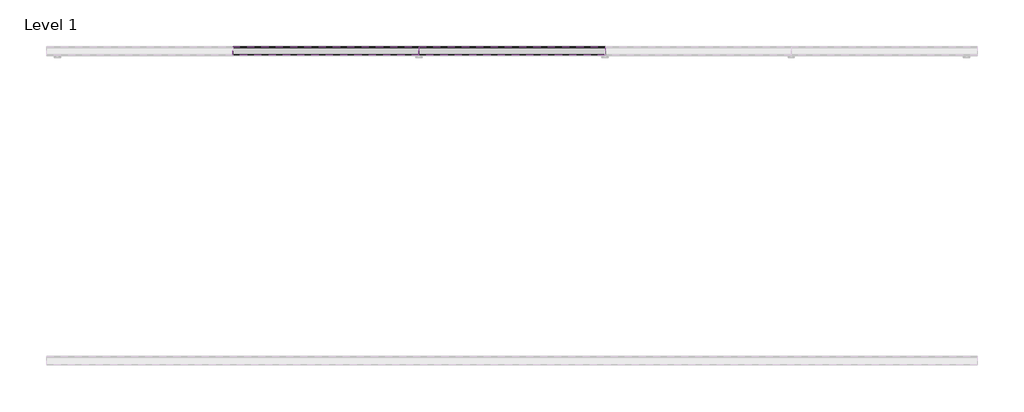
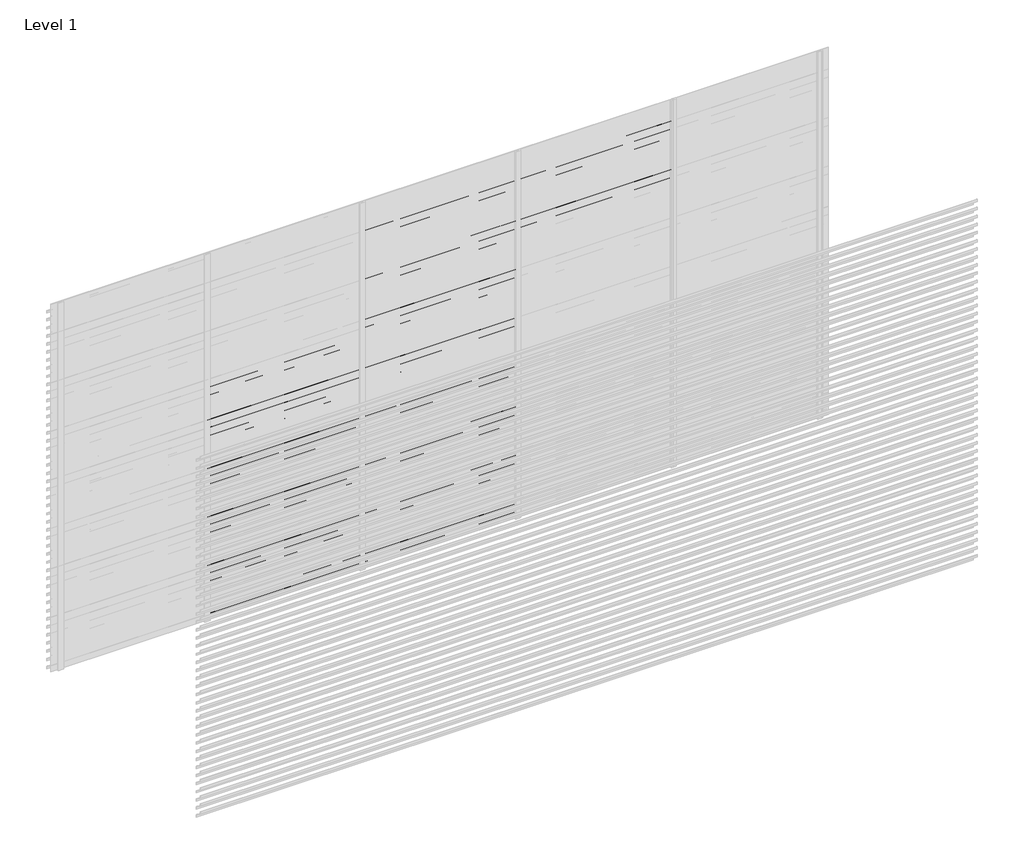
# One storey, part 74 of 540: 84 proxies.
"""IFC4 building model written with IfcOpenShell, lengths in millimetres."""

from ifc_helpers import new_model, si_unit, frame, origin, place, context, project, spatial, polyline, outline, extrude, element, save

model = new_model("IFC4")

# Units and contexts
model_context = context("Model", 3, world=origin())
ifc_project = project(units=[si_unit("LENGTHUNIT", "METRE", prefix="MILLI")], contexts=[model_context])

# Site, building, storey
site = spatial("IfcSite", under=ifc_project)
building = spatial("IfcBuilding", under=site)
storey = spatial("IfcBuildingStorey", under=building, Name="Level 1", Elevation=0.0)

# Proxies
placement = place(None, origin())
element("IfcBuildingElementProxy", 1, Name="Wall Sweeps", at=placement, inside=storey, context=model_context, shape_type="SweptSolid", body=[
    extrude(outline(polyline([(44081.0540136, 1857.5), (44081.0540136, 1837.5), (44079.8040136, 1838.2216933), (44079.8040136, 1856.7872415), (44026.0540136, 1894.3158044), (44026.0540136, 1914.0), (44027.3040136, 1914.0), (44027.3040136, 1895.0285629), (44081.0540136, 1857.5)])), frame((1666.6208099, 0.0, 0.0), z_axis=(1.0, 0.0, 0.0), x_axis=(0.0, 1.0, 0.0)), (0.0, 0.0, 1.0), 1199.9999999),
])
element("IfcBuildingElementProxy", 2, Name="Wall Sweeps", at=placement, inside=storey, context=model_context, shape_type="SweptSolid", body=[
    extrude(outline(polyline([(44081.0540136, 1791.5), (44081.0540136, 1771.5), (44079.8040136, 1772.2216933), (44079.8040136, 1790.7872415), (44026.0540136, 1828.3158044), (44026.0540136, 1848.0), (44027.3040136, 1848.0), (44027.3040136, 1829.0285629), (44081.0540136, 1791.5)])), frame((1666.6208099, 0.0, 0.0), z_axis=(1.0, 0.0, 0.0), x_axis=(0.0, 1.0, 0.0)), (0.0, 0.0, 1.0), 1199.9999999),
])
element("IfcBuildingElementProxy", 3, Name="Wall Sweeps", at=placement, inside=storey, context=model_context, shape_type="SweptSolid", body=[
    extrude(outline(polyline([(44081.0540136, 1725.5), (44081.0540136, 1705.5), (44079.8040136, 1706.2216933), (44079.8040136, 1724.7872415), (44026.0540136, 1762.3158044), (44026.0540136, 1782.0), (44027.3040136, 1782.0), (44027.3040136, 1763.0285629), (44081.0540136, 1725.5)])), frame((1666.6208099, 0.0, 0.0), z_axis=(1.0, 0.0, 0.0), x_axis=(0.0, 1.0, 0.0)), (0.0, 0.0, 1.0), 1199.9999999),
])
element("IfcBuildingElementProxy", 4, Name="Wall Sweeps", at=placement, inside=storey, context=model_context, shape_type="SweptSolid", body=[
    extrude(outline(polyline([(44081.0540136, 1659.5), (44081.0540136, 1639.5), (44079.8040136, 1640.2216933), (44079.8040136, 1658.7872415), (44026.0540136, 1696.3158044), (44026.0540136, 1716.0), (44027.3040136, 1716.0), (44027.3040136, 1697.0285629), (44081.0540136, 1659.5)])), frame((1666.6208099, 0.0, 0.0), z_axis=(1.0, 0.0, 0.0), x_axis=(0.0, 1.0, 0.0)), (0.0, 0.0, 1.0), 1199.9999999),
])
element("IfcBuildingElementProxy", 5, Name="Wall Sweeps", at=placement, inside=storey, context=model_context, shape_type="SweptSolid", body=[
    extrude(outline(polyline([(44081.0540136, 1593.5), (44081.0540136, 1573.5), (44079.8040136, 1574.2216933), (44079.8040136, 1592.7872415), (44026.0540136, 1630.3158044), (44026.0540136, 1650.0), (44027.3040136, 1650.0), (44027.3040136, 1631.0285629), (44081.0540136, 1593.5)])), frame((1666.6208099, 0.0, 0.0), z_axis=(1.0, 0.0, 0.0), x_axis=(0.0, 1.0, 0.0)), (0.0, 0.0, 1.0), 1199.9999999),
])
element("IfcBuildingElementProxy", 6, Name="Wall Sweeps", at=placement, inside=storey, context=model_context, shape_type="SweptSolid", body=[
    extrude(outline(polyline([(44081.0540136, 1527.5), (44081.0540136, 1507.5), (44079.8040136, 1508.2216933), (44079.8040136, 1526.7872415), (44026.0540136, 1564.3158044), (44026.0540136, 1584.0), (44027.3040136, 1584.0), (44027.3040136, 1565.0285629), (44081.0540136, 1527.5)])), frame((1666.6208099, 0.0, 0.0), z_axis=(1.0, 0.0, 0.0), x_axis=(0.0, 1.0, 0.0)), (0.0, 0.0, 1.0), 1199.9999999),
])
element("IfcBuildingElementProxy", 7, Name="Wall Sweeps", at=placement, inside=storey, context=model_context, shape_type="SweptSolid", body=[
    extrude(outline(polyline([(44081.0540136, 1461.5), (44081.0540136, 1441.5), (44079.8040136, 1442.2216933), (44079.8040136, 1460.7872415), (44026.0540136, 1498.3158044), (44026.0540136, 1518.0), (44027.3040136, 1518.0), (44027.3040136, 1499.0285629), (44081.0540136, 1461.5)])), frame((1666.6208099, 0.0, 0.0), z_axis=(1.0, 0.0, 0.0), x_axis=(0.0, 1.0, 0.0)), (0.0, 0.0, 1.0), 1199.9999999),
])
element("IfcBuildingElementProxy", 8, Name="Wall Sweeps", at=placement, inside=storey, context=model_context, shape_type="SweptSolid", body=[
    extrude(outline(polyline([(44081.0540136, 1395.5), (44081.0540136, 1375.5), (44079.8040136, 1376.2216933), (44079.8040136, 1394.7872415), (44026.0540136, 1432.3158044), (44026.0540136, 1452.0), (44027.3040136, 1452.0), (44027.3040136, 1433.0285629), (44081.0540136, 1395.5)])), frame((1666.6208099, 0.0, 0.0), z_axis=(1.0, 0.0, 0.0), x_axis=(0.0, 1.0, 0.0)), (0.0, 0.0, 1.0), 1199.9999999),
])
element("IfcBuildingElementProxy", 9, Name="Wall Sweeps", at=placement, inside=storey, context=model_context, shape_type="SweptSolid", body=[
    extrude(outline(polyline([(44081.0540136, 1329.5), (44081.0540136, 1309.5), (44079.8040136, 1310.2216933), (44079.8040136, 1328.7872415), (44026.0540136, 1366.3158044), (44026.0540136, 1386.0), (44027.3040136, 1386.0), (44027.3040136, 1367.0285629), (44081.0540136, 1329.5)])), frame((1666.6208099, 0.0, 0.0), z_axis=(1.0, 0.0, 0.0), x_axis=(0.0, 1.0, 0.0)), (0.0, 0.0, 1.0), 1199.9999999),
])
element("IfcBuildingElementProxy", 10, Name="Wall Sweeps", at=placement, inside=storey, context=model_context, shape_type="SweptSolid", body=[
    extrude(outline(polyline([(44081.0540136, 1263.5), (44081.0540136, 1243.5), (44079.8040136, 1244.2216933), (44079.8040136, 1262.7872415), (44026.0540136, 1300.3158044), (44026.0540136, 1320.0), (44027.3040136, 1320.0), (44027.3040136, 1301.0285629), (44081.0540136, 1263.5)])), frame((1666.6208099, 0.0, 0.0), z_axis=(1.0, 0.0, 0.0), x_axis=(0.0, 1.0, 0.0)), (0.0, 0.0, 1.0), 1199.9999999),
])
element("IfcBuildingElementProxy", 11, Name="Wall Sweeps", at=placement, inside=storey, context=model_context, shape_type="SweptSolid", body=[
    extrude(outline(polyline([(44081.0540136, 1197.5), (44081.0540136, 1177.5), (44079.8040136, 1178.2216933), (44079.8040136, 1196.7872415), (44026.0540136, 1234.3158044), (44026.0540136, 1254.0), (44027.3040136, 1254.0), (44027.3040136, 1235.0285629), (44081.0540136, 1197.5)])), frame((1666.6208099, 0.0, 0.0), z_axis=(1.0, 0.0, 0.0), x_axis=(0.0, 1.0, 0.0)), (0.0, 0.0, 1.0), 1199.9999999),
])
element("IfcBuildingElementProxy", 12, Name="Wall Sweeps", at=placement, inside=storey, context=model_context, shape_type="SweptSolid", body=[
    extrude(outline(polyline([(44081.0540136, 1131.5), (44081.0540136, 1111.5), (44079.8040136, 1112.2216933), (44079.8040136, 1130.7872415), (44026.0540136, 1168.3158044), (44026.0540136, 1188.0), (44027.3040136, 1188.0), (44027.3040136, 1169.0285629), (44081.0540136, 1131.5)])), frame((1666.6208099, 0.0, 0.0), z_axis=(1.0, 0.0, 0.0), x_axis=(0.0, 1.0, 0.0)), (0.0, 0.0, 1.0), 1199.9999999),
])
element("IfcBuildingElementProxy", 13, Name="Wall Sweeps", at=placement, inside=storey, context=model_context, shape_type="SweptSolid", body=[
    extrude(outline(polyline([(44081.0540136, 1065.5), (44081.0540136, 1045.5), (44079.8040136, 1046.2216933), (44079.8040136, 1064.7872415), (44026.0540136, 1102.3158044), (44026.0540136, 1122.0), (44027.3040136, 1122.0), (44027.3040136, 1103.0285629), (44081.0540136, 1065.5)])), frame((1666.6208099, 0.0, 0.0), z_axis=(1.0, 0.0, 0.0), x_axis=(0.0, 1.0, 0.0)), (0.0, 0.0, 1.0), 1199.9999999),
])
element("IfcBuildingElementProxy", 14, Name="Wall Sweeps", at=placement, inside=storey, context=model_context, shape_type="SweptSolid", body=[
    extrude(outline(polyline([(44081.0540136, 999.5), (44081.0540136, 979.5), (44079.8040136, 980.2216933), (44079.8040136, 998.7872415), (44026.0540136, 1036.3158044), (44026.0540136, 1056.0), (44027.3040136, 1056.0), (44027.3040136, 1037.0285629), (44081.0540136, 999.5)])), frame((1666.6208099, 0.0, 0.0), z_axis=(1.0, 0.0, 0.0), x_axis=(0.0, 1.0, 0.0)), (0.0, 0.0, 1.0), 1199.9999999),
])
element("IfcBuildingElementProxy", 15, Name="Wall Sweeps", at=placement, inside=storey, context=model_context, shape_type="SweptSolid", body=[
    extrude(outline(polyline([(44081.0540136, 933.5), (44081.0540136, 913.5), (44079.8040136, 914.2216933), (44079.8040136, 932.7872415), (44026.0540136, 970.3158044), (44026.0540136, 990.0), (44027.3040136, 990.0), (44027.3040136, 971.0285629), (44081.0540136, 933.5)])), frame((1666.6208099, 0.0, 0.0), z_axis=(1.0, 0.0, 0.0), x_axis=(0.0, 1.0, 0.0)), (0.0, 0.0, 1.0), 1199.9999999),
])
element("IfcBuildingElementProxy", 16, Name="Wall Sweeps", at=placement, inside=storey, context=model_context, shape_type="SweptSolid", body=[
    extrude(outline(polyline([(44081.0540136, 867.5), (44081.0540136, 847.5), (44079.8040136, 848.2216933), (44079.8040136, 866.7872415), (44026.0540136, 904.3158044), (44026.0540136, 924.0), (44027.3040136, 924.0), (44027.3040136, 905.0285629), (44081.0540136, 867.5)])), frame((1666.6208099, 0.0, 0.0), z_axis=(1.0, 0.0, 0.0), x_axis=(0.0, 1.0, 0.0)), (0.0, 0.0, 1.0), 1199.9999999),
])
element("IfcBuildingElementProxy", 17, Name="Wall Sweeps", at=placement, inside=storey, context=model_context, shape_type="SweptSolid", body=[
    extrude(outline(polyline([(44081.0540136, 801.5), (44081.0540136, 781.5), (44079.8040136, 782.2216933), (44079.8040136, 800.7872415), (44026.0540136, 838.3158044), (44026.0540136, 858.0), (44027.3040136, 858.0), (44027.3040136, 839.0285629), (44081.0540136, 801.5)])), frame((1666.6208099, 0.0, 0.0), z_axis=(1.0, 0.0, 0.0), x_axis=(0.0, 1.0, 0.0)), (0.0, 0.0, 1.0), 1199.9999999),
])
element("IfcBuildingElementProxy", 18, Name="Wall Sweeps", at=placement, inside=storey, context=model_context, shape_type="SweptSolid", body=[
    extrude(outline(polyline([(44081.0540136, 735.5), (44081.0540136, 715.5), (44079.8040136, 716.2216933), (44079.8040136, 734.7872415), (44026.0540136, 772.3158044), (44026.0540136, 792.0), (44027.3040136, 792.0), (44027.3040136, 773.0285629), (44081.0540136, 735.5)])), frame((1666.6208099, 0.0, 0.0), z_axis=(1.0, 0.0, 0.0), x_axis=(0.0, 1.0, 0.0)), (0.0, 0.0, 1.0), 1199.9999999),
])
element("IfcBuildingElementProxy", 19, Name="Wall Sweeps", at=placement, inside=storey, context=model_context, shape_type="SweptSolid", body=[
    extrude(outline(polyline([(44081.0540136, 669.5), (44081.0540136, 649.5), (44079.8040136, 650.2216933), (44079.8040136, 668.7872415), (44026.0540136, 706.3158044), (44026.0540136, 726.0), (44027.3040136, 726.0), (44027.3040136, 707.0285629), (44081.0540136, 669.5)])), frame((1666.6208099, 0.0, 0.0), z_axis=(1.0, 0.0, 0.0), x_axis=(0.0, 1.0, 0.0)), (0.0, 0.0, 1.0), 1199.9999999),
])
element("IfcBuildingElementProxy", 20, Name="Wall Sweeps", at=placement, inside=storey, context=model_context, shape_type="SweptSolid", body=[
    extrude(outline(polyline([(44081.0540136, 603.5), (44081.0540136, 583.5), (44079.8040136, 584.2216933), (44079.8040136, 602.7872415), (44026.0540136, 640.3158044), (44026.0540136, 660.0), (44027.3040136, 660.0), (44027.3040136, 641.0285629), (44081.0540136, 603.5)])), frame((1666.6208099, 0.0, 0.0), z_axis=(1.0, 0.0, 0.0), x_axis=(0.0, 1.0, 0.0)), (0.0, 0.0, 1.0), 1199.9999999),
])
element("IfcBuildingElementProxy", 21, Name="Wall Sweeps", at=placement, inside=storey, context=model_context, shape_type="SweptSolid", body=[
    extrude(outline(polyline([(44081.0540136, 537.5), (44081.0540136, 517.5), (44079.8040136, 518.2216933), (44079.8040136, 536.7872415), (44026.0540136, 574.3158044), (44026.0540136, 594.0), (44027.3040136, 594.0), (44027.3040136, 575.0285629), (44081.0540136, 537.5)])), frame((1666.6208099, 0.0, 0.0), z_axis=(1.0, 0.0, 0.0), x_axis=(0.0, 1.0, 0.0)), (0.0, 0.0, 1.0), 1199.9999999),
])
element("IfcBuildingElementProxy", 22, Name="Wall Sweeps", at=placement, inside=storey, context=model_context, shape_type="SweptSolid", body=[
    extrude(outline(polyline([(44081.0540136, 471.5), (44081.0540136, 451.5), (44079.8040136, 452.2216933), (44079.8040136, 470.7872415), (44026.0540136, 508.3158044), (44026.0540136, 528.0), (44027.3040136, 528.0), (44027.3040136, 509.0285629), (44081.0540136, 471.5)])), frame((1666.6208099, 0.0, 0.0), z_axis=(1.0, 0.0, 0.0), x_axis=(0.0, 1.0, 0.0)), (0.0, 0.0, 1.0), 1199.9999999),
])
element("IfcBuildingElementProxy", 23, Name="Wall Sweeps", at=placement, inside=storey, context=model_context, shape_type="SweptSolid", body=[
    extrude(outline(polyline([(44081.0540136, 405.5), (44081.0540136, 385.5), (44079.8040136, 386.2216933), (44079.8040136, 404.7872415), (44026.0540136, 442.3158044), (44026.0540136, 462.0), (44027.3040136, 462.0), (44027.3040136, 443.0285629), (44081.0540136, 405.5)])), frame((1666.6208099, 0.0, 0.0), z_axis=(1.0, 0.0, 0.0), x_axis=(0.0, 1.0, 0.0)), (0.0, 0.0, 1.0), 1199.9999999),
])
element("IfcBuildingElementProxy", 24, Name="Wall Sweeps", at=placement, inside=storey, context=model_context, shape_type="SweptSolid", body=[
    extrude(outline(polyline([(44081.0540136, 339.5), (44081.0540136, 319.5), (44079.8040136, 320.2216933), (44079.8040136, 338.7872415), (44026.0540136, 376.3158044), (44026.0540136, 396.0), (44027.3040136, 396.0), (44027.3040136, 377.0285629), (44081.0540136, 339.5)])), frame((1666.6208099, 0.0, 0.0), z_axis=(1.0, 0.0, 0.0), x_axis=(0.0, 1.0, 0.0)), (0.0, 0.0, 1.0), 1199.9999999),
])
element("IfcBuildingElementProxy", 25, Name="Wall Sweeps", at=placement, inside=storey, context=model_context, shape_type="SweptSolid", body=[
    extrude(outline(polyline([(44081.0540136, 273.5), (44081.0540136, 253.5), (44079.8040136, 254.2216933), (44079.8040136, 272.7872415), (44026.0540136, 310.3158044), (44026.0540136, 330.0), (44027.3040136, 330.0), (44027.3040136, 311.0285629), (44081.0540136, 273.5)])), frame((1666.6208099, 0.0, 0.0), z_axis=(1.0, 0.0, 0.0), x_axis=(0.0, 1.0, 0.0)), (0.0, 0.0, 1.0), 1199.9999999),
])
element("IfcBuildingElementProxy", 26, Name="Wall Sweeps", at=placement, inside=storey, context=model_context, shape_type="SweptSolid", body=[
    extrude(outline(polyline([(44081.0540136, 207.5), (44081.0540136, 187.5), (44079.8040136, 188.2216933), (44079.8040136, 206.7872415), (44026.0540136, 244.3158044), (44026.0540136, 264.0), (44027.3040136, 264.0), (44027.3040136, 245.0285629), (44081.0540136, 207.5)])), frame((1666.6208099, 0.0, 0.0), z_axis=(1.0, 0.0, 0.0), x_axis=(0.0, 1.0, 0.0)), (0.0, 0.0, 1.0), 1199.9999999),
])
element("IfcBuildingElementProxy", 27, Name="Wall Sweeps", at=placement, inside=storey, context=model_context, shape_type="SweptSolid", body=[
    extrude(outline(polyline([(44081.0540136, 141.5), (44081.0540136, 121.5), (44079.8040136, 122.2216933), (44079.8040136, 140.7872415), (44026.0540136, 178.3158044), (44026.0540136, 198.0), (44027.3040136, 198.0), (44027.3040136, 179.0285629), (44081.0540136, 141.5)])), frame((1666.6208099, 0.0, 0.0), z_axis=(1.0, 0.0, 0.0), x_axis=(0.0, 1.0, 0.0)), (0.0, 0.0, 1.0), 1199.9999999),
])
element("IfcBuildingElementProxy", 28, Name="Wall Sweeps", at=placement, inside=storey, context=model_context, shape_type="SweptSolid", body=[
    extrude(outline(polyline([(44081.0540136, 75.5), (44081.0540136, 55.5), (44079.8040136, 56.2216933), (44079.8040136, 74.7872415), (44026.0540136, 112.3158044), (44026.0540136, 132.0), (44027.3040136, 132.0), (44027.3040136, 113.0285629), (44081.0540136, 75.5)])), frame((1666.6208099, 0.0, 0.0), z_axis=(1.0, 0.0, 0.0), x_axis=(0.0, 1.0, 0.0)), (0.0, 0.0, 1.0), 1199.9999999),
])
element("IfcBuildingElementProxy", 29, Name="Wall Sweeps", at=placement, inside=storey, context=model_context, shape_type="SweptSolid", body=[
    extrude(outline(polyline([(44081.0540136, 9.5), (44081.0540136, -10.5), (44079.8040136, -9.7783067), (44079.8040136, 8.7872415), (44026.0540136, 46.3158044), (44026.0540136, 66.0), (44027.3040136, 66.0), (44027.3040136, 47.0285629), (44081.0540136, 9.5)])), frame((1666.6208099, 0.0, 0.0), z_axis=(1.0, 0.0, 0.0), x_axis=(0.0, 1.0, 0.0)), (0.0, 0.0, 1.0), 1199.9999999),
])
element("IfcBuildingElementProxy", 30, Name="Wall Sweeps", at=placement, inside=storey, context=model_context, shape_type="SweptSolid", body=[
    extrude(outline(polyline([(44081.0540136, 2913.5), (44081.0540136, 2893.5), (44079.8040136, 2894.2216933), (44079.8040136, 2912.7872415), (44026.0540136, 2950.3158044), (44026.0540136, 2970.0), (44027.3040136, 2970.0), (44027.3040136, 2951.0285629), (44081.0540136, 2913.5)])), frame((2866.6208097, 0.0, 0.0), z_axis=(1.0, 0.0, 0.0), x_axis=(0.0, 1.0, 0.0)), (0.0, 0.0, 1.0), 1199.9999999),
])
element("IfcBuildingElementProxy", 31, Name="Wall Sweeps", at=placement, inside=storey, context=model_context, shape_type="SweptSolid", body=[
    extrude(outline(polyline([(44081.0540136, 2847.5), (44081.0540136, 2827.5), (44079.8040136, 2828.2216933), (44079.8040136, 2846.7872415), (44026.0540136, 2884.3158044), (44026.0540136, 2904.0), (44027.3040136, 2904.0), (44027.3040136, 2885.0285629), (44081.0540136, 2847.5)])), frame((2866.6208097, 0.0, 0.0), z_axis=(1.0, 0.0, 0.0), x_axis=(0.0, 1.0, 0.0)), (0.0, 0.0, 1.0), 1199.9999999),
])
element("IfcBuildingElementProxy", 32, Name="Wall Sweeps", at=placement, inside=storey, context=model_context, shape_type="SweptSolid", body=[
    extrude(outline(polyline([(44081.0540136, 2781.5), (44081.0540136, 2761.5), (44079.8040136, 2762.2216933), (44079.8040136, 2780.7872415), (44026.0540136, 2818.3158044), (44026.0540136, 2838.0), (44027.3040136, 2838.0), (44027.3040136, 2819.0285629), (44081.0540136, 2781.5)])), frame((2866.6208097, 0.0, 0.0), z_axis=(1.0, 0.0, 0.0), x_axis=(0.0, 1.0, 0.0)), (0.0, 0.0, 1.0), 1199.9999999),
])
element("IfcBuildingElementProxy", 33, Name="Wall Sweeps", at=placement, inside=storey, context=model_context, shape_type="SweptSolid", body=[
    extrude(outline(polyline([(44081.0540136, 2715.5), (44081.0540136, 2695.5), (44079.8040136, 2696.2216933), (44079.8040136, 2714.7872415), (44026.0540136, 2752.3158044), (44026.0540136, 2772.0), (44027.3040136, 2772.0), (44027.3040136, 2753.0285629), (44081.0540136, 2715.5)])), frame((2866.6208097, 0.0, 0.0), z_axis=(1.0, 0.0, 0.0), x_axis=(0.0, 1.0, 0.0)), (0.0, 0.0, 1.0), 1199.9999999),
])
element("IfcBuildingElementProxy", 34, Name="Wall Sweeps", at=placement, inside=storey, context=model_context, shape_type="SweptSolid", body=[
    extrude(outline(polyline([(44081.0540136, 2649.5), (44081.0540136, 2629.5), (44079.8040136, 2630.2216933), (44079.8040136, 2648.7872415), (44026.0540136, 2686.3158044), (44026.0540136, 2706.0), (44027.3040136, 2706.0), (44027.3040136, 2687.0285629), (44081.0540136, 2649.5)])), frame((2866.6208097, 0.0, 0.0), z_axis=(1.0, 0.0, 0.0), x_axis=(0.0, 1.0, 0.0)), (0.0, 0.0, 1.0), 1199.9999999),
])
element("IfcBuildingElementProxy", 35, Name="Wall Sweeps", at=placement, inside=storey, context=model_context, shape_type="SweptSolid", body=[
    extrude(outline(polyline([(44081.0540136, 2583.5), (44081.0540136, 2563.5), (44079.8040136, 2564.2216933), (44079.8040136, 2582.7872415), (44026.0540136, 2620.3158044), (44026.0540136, 2640.0), (44027.3040136, 2640.0), (44027.3040136, 2621.0285629), (44081.0540136, 2583.5)])), frame((2866.6208097, 0.0, 0.0), z_axis=(1.0, 0.0, 0.0), x_axis=(0.0, 1.0, 0.0)), (0.0, 0.0, 1.0), 1199.9999999),
])
element("IfcBuildingElementProxy", 36, Name="Wall Sweeps", at=placement, inside=storey, context=model_context, shape_type="SweptSolid", body=[
    extrude(outline(polyline([(44081.0540136, 2517.5), (44081.0540136, 2497.5), (44079.8040136, 2498.2216933), (44079.8040136, 2516.7872415), (44026.0540136, 2554.3158044), (44026.0540136, 2574.0), (44027.3040136, 2574.0), (44027.3040136, 2555.0285629), (44081.0540136, 2517.5)])), frame((2866.6208097, 0.0, 0.0), z_axis=(1.0, 0.0, 0.0), x_axis=(0.0, 1.0, 0.0)), (0.0, 0.0, 1.0), 1199.9999999),
])
element("IfcBuildingElementProxy", 37, Name="Wall Sweeps", at=placement, inside=storey, context=model_context, shape_type="SweptSolid", body=[
    extrude(outline(polyline([(44081.0540136, 2451.5), (44081.0540136, 2431.5), (44079.8040136, 2432.2216933), (44079.8040136, 2450.7872415), (44026.0540136, 2488.3158044), (44026.0540136, 2508.0), (44027.3040136, 2508.0), (44027.3040136, 2489.0285629), (44081.0540136, 2451.5)])), frame((2866.6208097, 0.0, 0.0), z_axis=(1.0, 0.0, 0.0), x_axis=(0.0, 1.0, 0.0)), (0.0, 0.0, 1.0), 1199.9999999),
])
element("IfcBuildingElementProxy", 38, Name="Wall Sweeps", at=placement, inside=storey, context=model_context, shape_type="SweptSolid", body=[
    extrude(outline(polyline([(44081.0540136, 2385.5), (44081.0540136, 2365.5), (44079.8040136, 2366.2216933), (44079.8040136, 2384.7872415), (44026.0540136, 2422.3158044), (44026.0540136, 2442.0), (44027.3040136, 2442.0), (44027.3040136, 2423.0285629), (44081.0540136, 2385.5)])), frame((2866.6208097, 0.0, 0.0), z_axis=(1.0, 0.0, 0.0), x_axis=(0.0, 1.0, 0.0)), (0.0, 0.0, 1.0), 1199.9999999),
])
element("IfcBuildingElementProxy", 39, Name="Wall Sweeps", at=placement, inside=storey, context=model_context, shape_type="SweptSolid", body=[
    extrude(outline(polyline([(44081.0540136, 2319.5), (44081.0540136, 2299.5), (44079.8040136, 2300.2216933), (44079.8040136, 2318.7872415), (44026.0540136, 2356.3158044), (44026.0540136, 2376.0), (44027.3040136, 2376.0), (44027.3040136, 2357.0285629), (44081.0540136, 2319.5)])), frame((2866.6208097, 0.0, 0.0), z_axis=(1.0, 0.0, 0.0), x_axis=(0.0, 1.0, 0.0)), (0.0, 0.0, 1.0), 1199.9999999),
])
element("IfcBuildingElementProxy", 40, Name="Wall Sweeps", at=placement, inside=storey, context=model_context, shape_type="SweptSolid", body=[
    extrude(outline(polyline([(44081.0540136, 2253.5), (44081.0540136, 2233.5), (44079.8040136, 2234.2216933), (44079.8040136, 2252.7872415), (44026.0540136, 2290.3158044), (44026.0540136, 2310.0), (44027.3040136, 2310.0), (44027.3040136, 2291.0285629), (44081.0540136, 2253.5)])), frame((2866.6208097, 0.0, 0.0), z_axis=(1.0, 0.0, 0.0), x_axis=(0.0, 1.0, 0.0)), (0.0, 0.0, 1.0), 1199.9999999),
])
element("IfcBuildingElementProxy", 41, Name="Wall Sweeps", at=placement, inside=storey, context=model_context, shape_type="SweptSolid", body=[
    extrude(outline(polyline([(44081.0540136, 2187.5), (44081.0540136, 2167.5), (44079.8040136, 2168.2216933), (44079.8040136, 2186.7872415), (44026.0540136, 2224.3158044), (44026.0540136, 2244.0), (44027.3040136, 2244.0), (44027.3040136, 2225.0285629), (44081.0540136, 2187.5)])), frame((2866.6208097, 0.0, 0.0), z_axis=(1.0, 0.0, 0.0), x_axis=(0.0, 1.0, 0.0)), (0.0, 0.0, 1.0), 1199.9999999),
])
element("IfcBuildingElementProxy", 42, Name="Wall Sweeps", at=placement, inside=storey, context=model_context, shape_type="SweptSolid", body=[
    extrude(outline(polyline([(44081.0540136, 2121.5), (44081.0540136, 2101.5), (44079.8040136, 2102.2216933), (44079.8040136, 2120.7872415), (44026.0540136, 2158.3158044), (44026.0540136, 2178.0), (44027.3040136, 2178.0), (44027.3040136, 2159.0285629), (44081.0540136, 2121.5)])), frame((2866.6208097, 0.0, 0.0), z_axis=(1.0, 0.0, 0.0), x_axis=(0.0, 1.0, 0.0)), (0.0, 0.0, 1.0), 1199.9999999),
])
element("IfcBuildingElementProxy", 43, Name="Wall Sweeps", at=placement, inside=storey, context=model_context, shape_type="SweptSolid", body=[
    extrude(outline(polyline([(44081.0540136, 2055.5), (44081.0540136, 2035.5), (44079.8040136, 2036.2216933), (44079.8040136, 2054.7872415), (44026.0540136, 2092.3158044), (44026.0540136, 2112.0), (44027.3040136, 2112.0), (44027.3040136, 2093.0285629), (44081.0540136, 2055.5)])), frame((2866.6208097, 0.0, 0.0), z_axis=(1.0, 0.0, 0.0), x_axis=(0.0, 1.0, 0.0)), (0.0, 0.0, 1.0), 1199.9999999),
])
element("IfcBuildingElementProxy", 44, Name="Wall Sweeps", at=placement, inside=storey, context=model_context, shape_type="SweptSolid", body=[
    extrude(outline(polyline([(44081.0540136, 1989.5), (44081.0540136, 1969.5), (44079.8040136, 1970.2216933), (44079.8040136, 1988.7872415), (44026.0540136, 2026.3158044), (44026.0540136, 2046.0), (44027.3040136, 2046.0), (44027.3040136, 2027.0285629), (44081.0540136, 1989.5)])), frame((2866.6208097, 0.0, 0.0), z_axis=(1.0, 0.0, 0.0), x_axis=(0.0, 1.0, 0.0)), (0.0, 0.0, 1.0), 1199.9999999),
])
element("IfcBuildingElementProxy", 45, Name="Wall Sweeps", at=placement, inside=storey, context=model_context, shape_type="SweptSolid", body=[
    extrude(outline(polyline([(44081.0540136, 1923.5), (44081.0540136, 1903.5), (44079.8040136, 1904.2216933), (44079.8040136, 1922.7872415), (44026.0540136, 1960.3158044), (44026.0540136, 1980.0), (44027.3040136, 1980.0), (44027.3040136, 1961.0285629), (44081.0540136, 1923.5)])), frame((2866.6208097, 0.0, 0.0), z_axis=(1.0, 0.0, 0.0), x_axis=(0.0, 1.0, 0.0)), (0.0, 0.0, 1.0), 1199.9999999),
])
element("IfcBuildingElementProxy", 46, Name="Wall Sweeps", at=placement, inside=storey, context=model_context, shape_type="SweptSolid", body=[
    extrude(outline(polyline([(44081.0540136, 1857.5), (44081.0540136, 1837.5), (44079.8040136, 1838.2216933), (44079.8040136, 1856.7872415), (44026.0540136, 1894.3158044), (44026.0540136, 1914.0), (44027.3040136, 1914.0), (44027.3040136, 1895.0285629), (44081.0540136, 1857.5)])), frame((2866.6208097, 0.0, 0.0), z_axis=(1.0, 0.0, 0.0), x_axis=(0.0, 1.0, 0.0)), (0.0, 0.0, 1.0), 1199.9999999),
])
element("IfcBuildingElementProxy", 47, Name="Wall Sweeps", at=placement, inside=storey, context=model_context, shape_type="SweptSolid", body=[
    extrude(outline(polyline([(44081.0540136, 1791.5), (44081.0540136, 1771.5), (44079.8040136, 1772.2216933), (44079.8040136, 1790.7872415), (44026.0540136, 1828.3158044), (44026.0540136, 1848.0), (44027.3040136, 1848.0), (44027.3040136, 1829.0285629), (44081.0540136, 1791.5)])), frame((2866.6208097, 0.0, 0.0), z_axis=(1.0, 0.0, 0.0), x_axis=(0.0, 1.0, 0.0)), (0.0, 0.0, 1.0), 1199.9999999),
])
element("IfcBuildingElementProxy", 48, Name="Wall Sweeps", at=placement, inside=storey, context=model_context, shape_type="SweptSolid", body=[
    extrude(outline(polyline([(44081.0540136, 1725.5), (44081.0540136, 1705.5), (44079.8040136, 1706.2216933), (44079.8040136, 1724.7872415), (44026.0540136, 1762.3158044), (44026.0540136, 1782.0), (44027.3040136, 1782.0), (44027.3040136, 1763.0285629), (44081.0540136, 1725.5)])), frame((2866.6208097, 0.0, 0.0), z_axis=(1.0, 0.0, 0.0), x_axis=(0.0, 1.0, 0.0)), (0.0, 0.0, 1.0), 1199.9999999),
])
element("IfcBuildingElementProxy", 49, Name="Wall Sweeps", at=placement, inside=storey, context=model_context, shape_type="SweptSolid", body=[
    extrude(outline(polyline([(44081.0540136, 1659.5), (44081.0540136, 1639.5), (44079.8040136, 1640.2216933), (44079.8040136, 1658.7872415), (44026.0540136, 1696.3158044), (44026.0540136, 1716.0), (44027.3040136, 1716.0), (44027.3040136, 1697.0285629), (44081.0540136, 1659.5)])), frame((2866.6208097, 0.0, 0.0), z_axis=(1.0, 0.0, 0.0), x_axis=(0.0, 1.0, 0.0)), (0.0, 0.0, 1.0), 1199.9999999),
])
element("IfcBuildingElementProxy", 50, Name="Wall Sweeps", at=placement, inside=storey, context=model_context, shape_type="SweptSolid", body=[
    extrude(outline(polyline([(44081.0540136, 1593.5), (44081.0540136, 1573.5), (44079.8040136, 1574.2216933), (44079.8040136, 1592.7872415), (44026.0540136, 1630.3158044), (44026.0540136, 1650.0), (44027.3040136, 1650.0), (44027.3040136, 1631.0285629), (44081.0540136, 1593.5)])), frame((2866.6208097, 0.0, 0.0), z_axis=(1.0, 0.0, 0.0), x_axis=(0.0, 1.0, 0.0)), (0.0, 0.0, 1.0), 1199.9999999),
])
element("IfcBuildingElementProxy", 51, Name="Wall Sweeps", at=placement, inside=storey, context=model_context, shape_type="SweptSolid", body=[
    extrude(outline(polyline([(44081.0540136, 1527.5), (44081.0540136, 1507.5), (44079.8040136, 1508.2216933), (44079.8040136, 1526.7872415), (44026.0540136, 1564.3158044), (44026.0540136, 1584.0), (44027.3040136, 1584.0), (44027.3040136, 1565.0285629), (44081.0540136, 1527.5)])), frame((2866.6208097, 0.0, 0.0), z_axis=(1.0, 0.0, 0.0), x_axis=(0.0, 1.0, 0.0)), (0.0, 0.0, 1.0), 1199.9999999),
])
element("IfcBuildingElementProxy", 52, Name="Wall Sweeps", at=placement, inside=storey, context=model_context, shape_type="SweptSolid", body=[
    extrude(outline(polyline([(44081.0540136, 1461.5), (44081.0540136, 1441.5), (44079.8040136, 1442.2216933), (44079.8040136, 1460.7872415), (44026.0540136, 1498.3158044), (44026.0540136, 1518.0), (44027.3040136, 1518.0), (44027.3040136, 1499.0285629), (44081.0540136, 1461.5)])), frame((2866.6208097, 0.0, 0.0), z_axis=(1.0, 0.0, 0.0), x_axis=(0.0, 1.0, 0.0)), (0.0, 0.0, 1.0), 1199.9999999),
])
element("IfcBuildingElementProxy", 53, Name="Wall Sweeps", at=placement, inside=storey, context=model_context, shape_type="SweptSolid", body=[
    extrude(outline(polyline([(44081.0540136, 1395.5), (44081.0540136, 1375.5), (44079.8040136, 1376.2216933), (44079.8040136, 1394.7872415), (44026.0540136, 1432.3158044), (44026.0540136, 1452.0), (44027.3040136, 1452.0), (44027.3040136, 1433.0285629), (44081.0540136, 1395.5)])), frame((2866.6208097, 0.0, 0.0), z_axis=(1.0, 0.0, 0.0), x_axis=(0.0, 1.0, 0.0)), (0.0, 0.0, 1.0), 1199.9999999),
])
element("IfcBuildingElementProxy", 54, Name="Wall Sweeps", at=placement, inside=storey, context=model_context, shape_type="SweptSolid", body=[
    extrude(outline(polyline([(44081.0540136, 1329.5), (44081.0540136, 1309.5), (44079.8040136, 1310.2216933), (44079.8040136, 1328.7872415), (44026.0540136, 1366.3158044), (44026.0540136, 1386.0), (44027.3040136, 1386.0), (44027.3040136, 1367.0285629), (44081.0540136, 1329.5)])), frame((2866.6208097, 0.0, 0.0), z_axis=(1.0, 0.0, 0.0), x_axis=(0.0, 1.0, 0.0)), (0.0, 0.0, 1.0), 1199.9999999),
])
element("IfcBuildingElementProxy", 55, Name="Wall Sweeps", at=placement, inside=storey, context=model_context, shape_type="SweptSolid", body=[
    extrude(outline(polyline([(44081.0540136, 1263.5), (44081.0540136, 1243.5), (44079.8040136, 1244.2216933), (44079.8040136, 1262.7872415), (44026.0540136, 1300.3158044), (44026.0540136, 1320.0), (44027.3040136, 1320.0), (44027.3040136, 1301.0285629), (44081.0540136, 1263.5)])), frame((2866.6208097, 0.0, 0.0), z_axis=(1.0, 0.0, 0.0), x_axis=(0.0, 1.0, 0.0)), (0.0, 0.0, 1.0), 1199.9999999),
])
element("IfcBuildingElementProxy", 56, Name="Wall Sweeps", at=placement, inside=storey, context=model_context, shape_type="SweptSolid", body=[
    extrude(outline(polyline([(44081.0540136, 1197.5), (44081.0540136, 1177.5), (44079.8040136, 1178.2216933), (44079.8040136, 1196.7872415), (44026.0540136, 1234.3158044), (44026.0540136, 1254.0), (44027.3040136, 1254.0), (44027.3040136, 1235.0285629), (44081.0540136, 1197.5)])), frame((2866.6208097, 0.0, 0.0), z_axis=(1.0, 0.0, 0.0), x_axis=(0.0, 1.0, 0.0)), (0.0, 0.0, 1.0), 1199.9999999),
])
element("IfcBuildingElementProxy", 57, Name="Wall Sweeps", at=placement, inside=storey, context=model_context, shape_type="SweptSolid", body=[
    extrude(outline(polyline([(44081.0540136, 1131.5), (44081.0540136, 1111.5), (44079.8040136, 1112.2216933), (44079.8040136, 1130.7872415), (44026.0540136, 1168.3158044), (44026.0540136, 1188.0), (44027.3040136, 1188.0), (44027.3040136, 1169.0285629), (44081.0540136, 1131.5)])), frame((2866.6208097, 0.0, 0.0), z_axis=(1.0, 0.0, 0.0), x_axis=(0.0, 1.0, 0.0)), (0.0, 0.0, 1.0), 1199.9999999),
])
element("IfcBuildingElementProxy", 58, Name="Wall Sweeps", at=placement, inside=storey, context=model_context, shape_type="SweptSolid", body=[
    extrude(outline(polyline([(44081.0540136, 1065.5), (44081.0540136, 1045.5), (44079.8040136, 1046.2216933), (44079.8040136, 1064.7872415), (44026.0540136, 1102.3158044), (44026.0540136, 1122.0), (44027.3040136, 1122.0), (44027.3040136, 1103.0285629), (44081.0540136, 1065.5)])), frame((2866.6208097, 0.0, 0.0), z_axis=(1.0, 0.0, 0.0), x_axis=(0.0, 1.0, 0.0)), (0.0, 0.0, 1.0), 1199.9999999),
])
element("IfcBuildingElementProxy", 59, Name="Wall Sweeps", at=placement, inside=storey, context=model_context, shape_type="SweptSolid", body=[
    extrude(outline(polyline([(44081.0540136, 999.5), (44081.0540136, 979.5), (44079.8040136, 980.2216933), (44079.8040136, 998.7872415), (44026.0540136, 1036.3158044), (44026.0540136, 1056.0), (44027.3040136, 1056.0), (44027.3040136, 1037.0285629), (44081.0540136, 999.5)])), frame((2866.6208097, 0.0, 0.0), z_axis=(1.0, 0.0, 0.0), x_axis=(0.0, 1.0, 0.0)), (0.0, 0.0, 1.0), 1199.9999999),
])
element("IfcBuildingElementProxy", 60, Name="Wall Sweeps", at=placement, inside=storey, context=model_context, shape_type="SweptSolid", body=[
    extrude(outline(polyline([(44081.0540136, 933.5), (44081.0540136, 913.5), (44079.8040136, 914.2216933), (44079.8040136, 932.7872415), (44026.0540136, 970.3158044), (44026.0540136, 990.0), (44027.3040136, 990.0), (44027.3040136, 971.0285629), (44081.0540136, 933.5)])), frame((2866.6208097, 0.0, 0.0), z_axis=(1.0, 0.0, 0.0), x_axis=(0.0, 1.0, 0.0)), (0.0, 0.0, 1.0), 1199.9999999),
])
element("IfcBuildingElementProxy", 61, Name="Wall Sweeps", at=placement, inside=storey, context=model_context, shape_type="SweptSolid", body=[
    extrude(outline(polyline([(44081.0540136, 867.5), (44081.0540136, 847.5), (44079.8040136, 848.2216933), (44079.8040136, 866.7872415), (44026.0540136, 904.3158044), (44026.0540136, 924.0), (44027.3040136, 924.0), (44027.3040136, 905.0285629), (44081.0540136, 867.5)])), frame((2866.6208097, 0.0, 0.0), z_axis=(1.0, 0.0, 0.0), x_axis=(0.0, 1.0, 0.0)), (0.0, 0.0, 1.0), 1199.9999999),
])
element("IfcBuildingElementProxy", 62, Name="Wall Sweeps", at=placement, inside=storey, context=model_context, shape_type="SweptSolid", body=[
    extrude(outline(polyline([(44081.0540136, 801.5), (44081.0540136, 781.5), (44079.8040136, 782.2216933), (44079.8040136, 800.7872415), (44026.0540136, 838.3158044), (44026.0540136, 858.0), (44027.3040136, 858.0), (44027.3040136, 839.0285629), (44081.0540136, 801.5)])), frame((2866.6208097, 0.0, 0.0), z_axis=(1.0, 0.0, 0.0), x_axis=(0.0, 1.0, 0.0)), (0.0, 0.0, 1.0), 1199.9999999),
])
element("IfcBuildingElementProxy", 63, Name="Wall Sweeps", at=placement, inside=storey, context=model_context, shape_type="SweptSolid", body=[
    extrude(outline(polyline([(44081.0540136, 735.5), (44081.0540136, 715.5), (44079.8040136, 716.2216933), (44079.8040136, 734.7872415), (44026.0540136, 772.3158044), (44026.0540136, 792.0), (44027.3040136, 792.0), (44027.3040136, 773.0285629), (44081.0540136, 735.5)])), frame((2866.6208097, 0.0, 0.0), z_axis=(1.0, 0.0, 0.0), x_axis=(0.0, 1.0, 0.0)), (0.0, 0.0, 1.0), 1199.9999999),
])
element("IfcBuildingElementProxy", 64, Name="Wall Sweeps", at=placement, inside=storey, context=model_context, shape_type="SweptSolid", body=[
    extrude(outline(polyline([(44081.0540136, 669.5), (44081.0540136, 649.5), (44079.8040136, 650.2216933), (44079.8040136, 668.7872415), (44026.0540136, 706.3158044), (44026.0540136, 726.0), (44027.3040136, 726.0), (44027.3040136, 707.0285629), (44081.0540136, 669.5)])), frame((2866.6208097, 0.0, 0.0), z_axis=(1.0, 0.0, 0.0), x_axis=(0.0, 1.0, 0.0)), (0.0, 0.0, 1.0), 1199.9999999),
])
element("IfcBuildingElementProxy", 65, Name="Wall Sweeps", at=placement, inside=storey, context=model_context, shape_type="SweptSolid", body=[
    extrude(outline(polyline([(44081.0540136, 603.5), (44081.0540136, 583.5), (44079.8040136, 584.2216933), (44079.8040136, 602.7872415), (44026.0540136, 640.3158044), (44026.0540136, 660.0), (44027.3040136, 660.0), (44027.3040136, 641.0285629), (44081.0540136, 603.5)])), frame((2866.6208097, 0.0, 0.0), z_axis=(1.0, 0.0, 0.0), x_axis=(0.0, 1.0, 0.0)), (0.0, 0.0, 1.0), 1199.9999999),
])
element("IfcBuildingElementProxy", 66, Name="Wall Sweeps", at=placement, inside=storey, context=model_context, shape_type="SweptSolid", body=[
    extrude(outline(polyline([(44081.0540136, 537.5), (44081.0540136, 517.5), (44079.8040136, 518.2216933), (44079.8040136, 536.7872415), (44026.0540136, 574.3158044), (44026.0540136, 594.0), (44027.3040136, 594.0), (44027.3040136, 575.0285629), (44081.0540136, 537.5)])), frame((2866.6208097, 0.0, 0.0), z_axis=(1.0, 0.0, 0.0), x_axis=(0.0, 1.0, 0.0)), (0.0, 0.0, 1.0), 1199.9999999),
])
element("IfcBuildingElementProxy", 67, Name="Wall Sweeps", at=placement, inside=storey, context=model_context, shape_type="SweptSolid", body=[
    extrude(outline(polyline([(44081.0540136, 471.5), (44081.0540136, 451.5), (44079.8040136, 452.2216933), (44079.8040136, 470.7872415), (44026.0540136, 508.3158044), (44026.0540136, 528.0), (44027.3040136, 528.0), (44027.3040136, 509.0285629), (44081.0540136, 471.5)])), frame((2866.6208097, 0.0, 0.0), z_axis=(1.0, 0.0, 0.0), x_axis=(0.0, 1.0, 0.0)), (0.0, 0.0, 1.0), 1199.9999999),
])
element("IfcBuildingElementProxy", 68, Name="Wall Sweeps", at=placement, inside=storey, context=model_context, shape_type="SweptSolid", body=[
    extrude(outline(polyline([(44081.0540136, 405.5), (44081.0540136, 385.5), (44079.8040136, 386.2216933), (44079.8040136, 404.7872415), (44026.0540136, 442.3158044), (44026.0540136, 462.0), (44027.3040136, 462.0), (44027.3040136, 443.0285629), (44081.0540136, 405.5)])), frame((2866.6208097, 0.0, 0.0), z_axis=(1.0, 0.0, 0.0), x_axis=(0.0, 1.0, 0.0)), (0.0, 0.0, 1.0), 1199.9999999),
])
element("IfcBuildingElementProxy", 69, Name="Wall Sweeps", at=placement, inside=storey, context=model_context, shape_type="SweptSolid", body=[
    extrude(outline(polyline([(44081.0540136, 339.5), (44081.0540136, 319.5), (44079.8040136, 320.2216933), (44079.8040136, 338.7872415), (44026.0540136, 376.3158044), (44026.0540136, 396.0), (44027.3040136, 396.0), (44027.3040136, 377.0285629), (44081.0540136, 339.5)])), frame((2866.6208097, 0.0, 0.0), z_axis=(1.0, 0.0, 0.0), x_axis=(0.0, 1.0, 0.0)), (0.0, 0.0, 1.0), 1199.9999999),
])
element("IfcBuildingElementProxy", 70, Name="Wall Sweeps", at=placement, inside=storey, context=model_context, shape_type="SweptSolid", body=[
    extrude(outline(polyline([(44081.0540136, 273.5), (44081.0540136, 253.5), (44079.8040136, 254.2216933), (44079.8040136, 272.7872415), (44026.0540136, 310.3158044), (44026.0540136, 330.0), (44027.3040136, 330.0), (44027.3040136, 311.0285629), (44081.0540136, 273.5)])), frame((2866.6208097, 0.0, 0.0), z_axis=(1.0, 0.0, 0.0), x_axis=(0.0, 1.0, 0.0)), (0.0, 0.0, 1.0), 1199.9999999),
])
element("IfcBuildingElementProxy", 71, Name="Wall Sweeps", at=placement, inside=storey, context=model_context, shape_type="SweptSolid", body=[
    extrude(outline(polyline([(44081.0540136, 207.5), (44081.0540136, 187.5), (44079.8040136, 188.2216933), (44079.8040136, 206.7872415), (44026.0540136, 244.3158044), (44026.0540136, 264.0), (44027.3040136, 264.0), (44027.3040136, 245.0285629), (44081.0540136, 207.5)])), frame((2866.6208097, 0.0, 0.0), z_axis=(1.0, 0.0, 0.0), x_axis=(0.0, 1.0, 0.0)), (0.0, 0.0, 1.0), 1199.9999999),
])
element("IfcBuildingElementProxy", 72, Name="Wall Sweeps", at=placement, inside=storey, context=model_context, shape_type="SweptSolid", body=[
    extrude(outline(polyline([(44081.0540136, 141.5), (44081.0540136, 121.5), (44079.8040136, 122.2216933), (44079.8040136, 140.7872415), (44026.0540136, 178.3158044), (44026.0540136, 198.0), (44027.3040136, 198.0), (44027.3040136, 179.0285629), (44081.0540136, 141.5)])), frame((2866.6208097, 0.0, 0.0), z_axis=(1.0, 0.0, 0.0), x_axis=(0.0, 1.0, 0.0)), (0.0, 0.0, 1.0), 1199.9999999),
])
element("IfcBuildingElementProxy", 73, Name="Wall Sweeps", at=placement, inside=storey, context=model_context, shape_type="SweptSolid", body=[
    extrude(outline(polyline([(44081.0540136, 75.5), (44081.0540136, 55.5), (44079.8040136, 56.2216933), (44079.8040136, 74.7872415), (44026.0540136, 112.3158044), (44026.0540136, 132.0), (44027.3040136, 132.0), (44027.3040136, 113.0285629), (44081.0540136, 75.5)])), frame((2866.6208097, 0.0, 0.0), z_axis=(1.0, 0.0, 0.0), x_axis=(0.0, 1.0, 0.0)), (0.0, 0.0, 1.0), 1199.9999999),
])
element("IfcBuildingElementProxy", 74, Name="Wall Sweeps", at=placement, inside=storey, context=model_context, shape_type="SweptSolid", body=[
    extrude(outline(polyline([(44081.0540136, 9.5), (44081.0540136, -10.5), (44079.8040136, -9.7783067), (44079.8040136, 8.7872415), (44026.0540136, 46.3158044), (44026.0540136, 66.0), (44027.3040136, 66.0), (44027.3040136, 47.0285629), (44081.0540136, 9.5)])), frame((2866.6208097, 0.0, 0.0), z_axis=(1.0, 0.0, 0.0), x_axis=(0.0, 1.0, 0.0)), (0.0, 0.0, 1.0), 1199.9999999),
])
element("IfcBuildingElementProxy", 75, Name="Wall Sweeps", at=placement, inside=storey, context=model_context, shape_type="SweptSolid", body=[
    extrude(outline(polyline([(44081.0540136, 2913.5), (44081.0540136, 2893.5), (44079.8040136, 2894.2216933), (44079.8040136, 2912.7872415), (44026.0540136, 2950.3158044), (44026.0540136, 2970.0), (44027.3040136, 2970.0), (44027.3040136, 2951.0285629), (44081.0540136, 2913.5)])), frame((4066.6208096, 0.0, 0.0), z_axis=(1.0, 0.0, 0.0), x_axis=(0.0, 1.0, 0.0)), (0.0, 0.0, 1.0), 1199.9999999),
])
element("IfcBuildingElementProxy", 76, Name="Wall Sweeps", at=placement, inside=storey, context=model_context, shape_type="SweptSolid", body=[
    extrude(outline(polyline([(44081.0540136, 2847.5), (44081.0540136, 2827.5), (44079.8040136, 2828.2216933), (44079.8040136, 2846.7872415), (44026.0540136, 2884.3158044), (44026.0540136, 2904.0), (44027.3040136, 2904.0), (44027.3040136, 2885.0285629), (44081.0540136, 2847.5)])), frame((4066.6208096, 0.0, 0.0), z_axis=(1.0, 0.0, 0.0), x_axis=(0.0, 1.0, 0.0)), (0.0, 0.0, 1.0), 1199.9999999),
])
element("IfcBuildingElementProxy", 77, Name="Wall Sweeps", at=placement, inside=storey, context=model_context, shape_type="SweptSolid", body=[
    extrude(outline(polyline([(44081.0540136, 2781.5), (44081.0540136, 2761.5), (44079.8040136, 2762.2216933), (44079.8040136, 2780.7872415), (44026.0540136, 2818.3158044), (44026.0540136, 2838.0), (44027.3040136, 2838.0), (44027.3040136, 2819.0285629), (44081.0540136, 2781.5)])), frame((4066.6208096, 0.0, 0.0), z_axis=(1.0, 0.0, 0.0), x_axis=(0.0, 1.0, 0.0)), (0.0, 0.0, 1.0), 1199.9999999),
])
element("IfcBuildingElementProxy", 78, Name="Wall Sweeps", at=placement, inside=storey, context=model_context, shape_type="SweptSolid", body=[
    extrude(outline(polyline([(44081.0540136, 2715.5), (44081.0540136, 2695.5), (44079.8040136, 2696.2216933), (44079.8040136, 2714.7872415), (44026.0540136, 2752.3158044), (44026.0540136, 2772.0), (44027.3040136, 2772.0), (44027.3040136, 2753.0285629), (44081.0540136, 2715.5)])), frame((4066.6208096, 0.0, 0.0), z_axis=(1.0, 0.0, 0.0), x_axis=(0.0, 1.0, 0.0)), (0.0, 0.0, 1.0), 1199.9999999),
])
element("IfcBuildingElementProxy", 79, Name="Wall Sweeps", at=placement, inside=storey, context=model_context, shape_type="SweptSolid", body=[
    extrude(outline(polyline([(44081.0540136, 2649.5), (44081.0540136, 2629.5), (44079.8040136, 2630.2216933), (44079.8040136, 2648.7872415), (44026.0540136, 2686.3158044), (44026.0540136, 2706.0), (44027.3040136, 2706.0), (44027.3040136, 2687.0285629), (44081.0540136, 2649.5)])), frame((4066.6208096, 0.0, 0.0), z_axis=(1.0, 0.0, 0.0), x_axis=(0.0, 1.0, 0.0)), (0.0, 0.0, 1.0), 1199.9999999),
])
element("IfcBuildingElementProxy", 80, Name="Wall Sweeps", at=placement, inside=storey, context=model_context, shape_type="SweptSolid", body=[
    extrude(outline(polyline([(44081.0540136, 2583.5), (44081.0540136, 2563.5), (44079.8040136, 2564.2216933), (44079.8040136, 2582.7872415), (44026.0540136, 2620.3158044), (44026.0540136, 2640.0), (44027.3040136, 2640.0), (44027.3040136, 2621.0285629), (44081.0540136, 2583.5)])), frame((4066.6208096, 0.0, 0.0), z_axis=(1.0, 0.0, 0.0), x_axis=(0.0, 1.0, 0.0)), (0.0, 0.0, 1.0), 1199.9999999),
])
element("IfcBuildingElementProxy", 81, Name="Wall Sweeps", at=placement, inside=storey, context=model_context, shape_type="SweptSolid", body=[
    extrude(outline(polyline([(44081.0540136, 2517.5), (44081.0540136, 2497.5), (44079.8040136, 2498.2216933), (44079.8040136, 2516.7872415), (44026.0540136, 2554.3158044), (44026.0540136, 2574.0), (44027.3040136, 2574.0), (44027.3040136, 2555.0285629), (44081.0540136, 2517.5)])), frame((4066.6208096, 0.0, 0.0), z_axis=(1.0, 0.0, 0.0), x_axis=(0.0, 1.0, 0.0)), (0.0, 0.0, 1.0), 1199.9999999),
])
element("IfcBuildingElementProxy", 82, Name="Wall Sweeps", at=placement, inside=storey, context=model_context, shape_type="SweptSolid", body=[
    extrude(outline(polyline([(44081.0540136, 2451.5), (44081.0540136, 2431.5), (44079.8040136, 2432.2216933), (44079.8040136, 2450.7872415), (44026.0540136, 2488.3158044), (44026.0540136, 2508.0), (44027.3040136, 2508.0), (44027.3040136, 2489.0285629), (44081.0540136, 2451.5)])), frame((4066.6208096, 0.0, 0.0), z_axis=(1.0, 0.0, 0.0), x_axis=(0.0, 1.0, 0.0)), (0.0, 0.0, 1.0), 1199.9999999),
])
element("IfcBuildingElementProxy", 83, Name="Wall Sweeps", at=placement, inside=storey, context=model_context, shape_type="SweptSolid", body=[
    extrude(outline(polyline([(44081.0540136, 2385.5), (44081.0540136, 2365.5), (44079.8040136, 2366.2216933), (44079.8040136, 2384.7872415), (44026.0540136, 2422.3158044), (44026.0540136, 2442.0), (44027.3040136, 2442.0), (44027.3040136, 2423.0285629), (44081.0540136, 2385.5)])), frame((4066.6208096, 0.0, 0.0), z_axis=(1.0, 0.0, 0.0), x_axis=(0.0, 1.0, 0.0)), (0.0, 0.0, 1.0), 1199.9999999),
])
element("IfcBuildingElementProxy", 84, Name="Wall Sweeps", at=placement, inside=storey, context=model_context, shape_type="SweptSolid", body=[
    extrude(outline(polyline([(44081.0540136, 2319.5), (44081.0540136, 2299.5), (44079.8040136, 2300.2216933), (44079.8040136, 2318.7872415), (44026.0540136, 2356.3158044), (44026.0540136, 2376.0), (44027.3040136, 2376.0), (44027.3040136, 2357.0285629), (44081.0540136, 2319.5)])), frame((4066.6208096, 0.0, 0.0), z_axis=(1.0, 0.0, 0.0), x_axis=(0.0, 1.0, 0.0)), (0.0, 0.0, 1.0), 1199.9999999),
])

save(model, "model.ifc")
